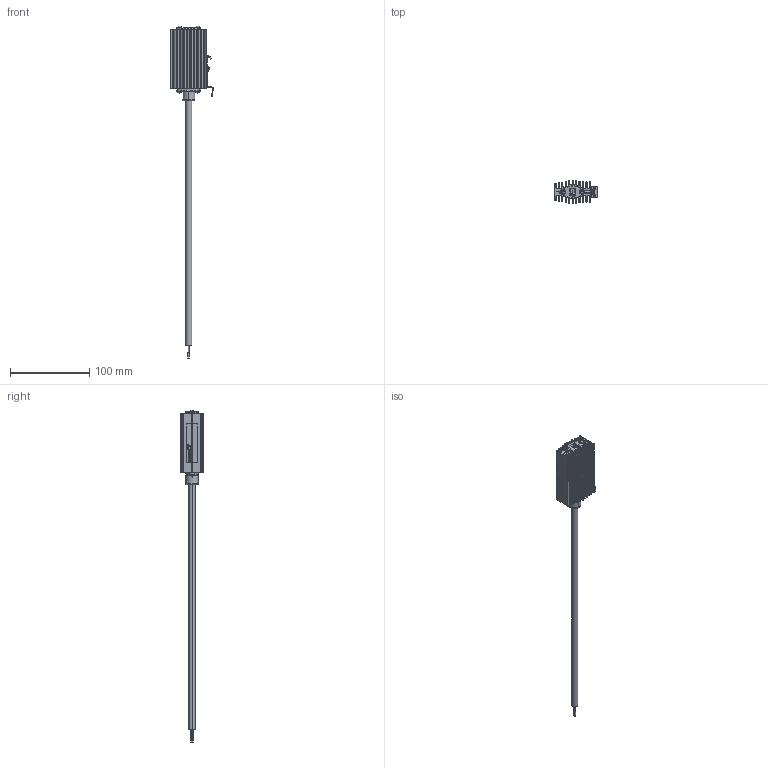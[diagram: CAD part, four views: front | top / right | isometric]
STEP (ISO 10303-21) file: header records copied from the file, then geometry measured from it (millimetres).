
FILE_DESCRIPTION (( 'STEP AP214' ), '1' );
FILE_NAME ('PRH 0x0-M.STEP', '2017-12-01T06:17:51', ( '' ), ( '' ), 'SwSTEP 2.0', 'SolidWorks 2015', '' );
FILE_SCHEMA (( 'AUTOMOTIVE_DESIGN' ));
Length unit declared in the file: millimetre
Products named in the file (1): PRH 0x0-M
Bounding box: 53.6 x 29.5 x 420.09 mm (x, y, z)
Volume: 72022.3 mm3; surface area: 62048.3 mm2
Topology: 15 solids, 15 shells, 1742 faces, 4826 edges, 3188 vertices
Faces by surface type: plane 840, cylinder 565, bspline 206, cone 76, torus 41, sphere 14
Entity records: 86083 total; most frequent: CARTESIAN_POINT 22545, ORIENTED_EDGE 9648, DIRECTION 8748, EDGE_CURVE 4824, VERTEX_POINT 3188, VECTOR 2938, LINE 2938, AXIS2_PLACEMENT_3D 2905
